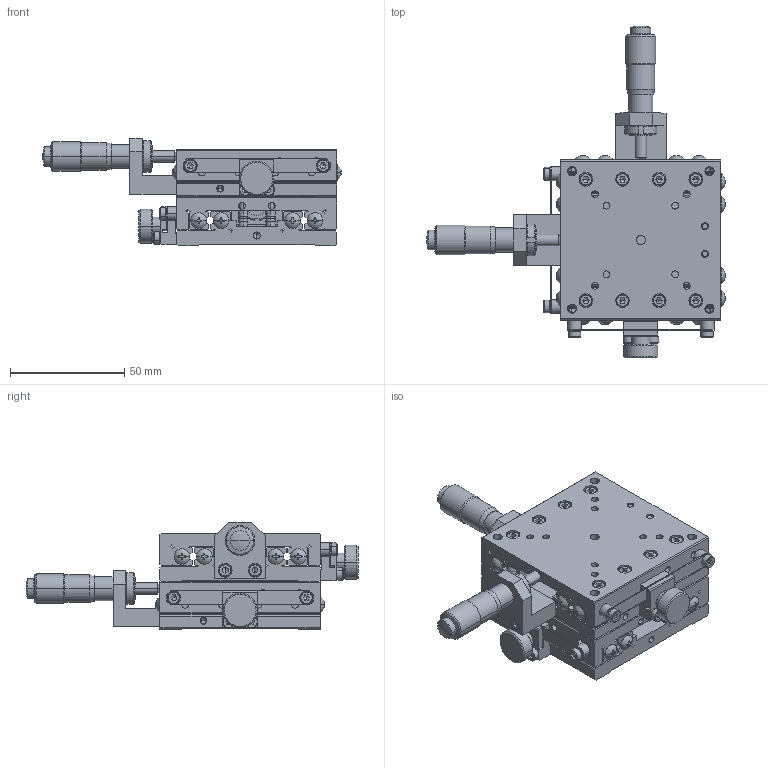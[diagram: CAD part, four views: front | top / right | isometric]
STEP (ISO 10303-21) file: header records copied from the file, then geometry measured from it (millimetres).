
FILE_DESCRIPTION (( 'STEP AP214' ), '1' );
FILE_NAME ('YM07F-C1.STEP', '2009-05-18T08:16:44', ( ' ' ), ( ' ' ), 'SwSTEP 2.0', 'SolidWorks 2008', '' );
FILE_SCHEMA (( 'AUTOMOTIVE_DESIGN' ));
Length unit declared in the file: millimetre
Products named in the file (10): 001550-1011(3D)-Part-2-1; XM07F-C1(PL); YM07F-C1; 001550-1011(3D)-Part-2; 001550-1011(3D)-Part-1; 001550-1011(3D); 001550-1011(3D)-1; XM07F-C1(PL)-1; 001550-1023(3D)-1; 001550-1011(3D)-Part-1-1
Assembly tree (9 placements, depth 4):
  YM07F-C1
    XM07F-C1(PL)
      001550-1023(3D)-1
      001550-1011(3D)
        001550-1011(3D)-Part-2
        001550-1011(3D)-Part-1
    XM07F-C1(PL)-1
      001550-1011(3D)-1
        001550-1011(3D)-Part-1-1
        001550-1011(3D)-Part-2-1
Bounding box: 130.37 x 145 x 47 mm (x, y, z)
Volume: 192086.3 mm3; surface area: 100481.8 mm2
Topology: 5 solids, 81 shells, 3592 faces, 8608 edges, 5160 vertices
Faces by surface type: plane 1646, cylinder 1108, cone 766, sphere 40, torus 32
Entity records: 104211 total; most frequent: CARTESIAN_POINT 19910, DIRECTION 18572, ORIENTED_EDGE 16848, EDGE_CURVE 8424, AXIS2_PLACEMENT_3D 7104, VERTEX_POINT 5160, VECTOR 4364, LINE 4364
